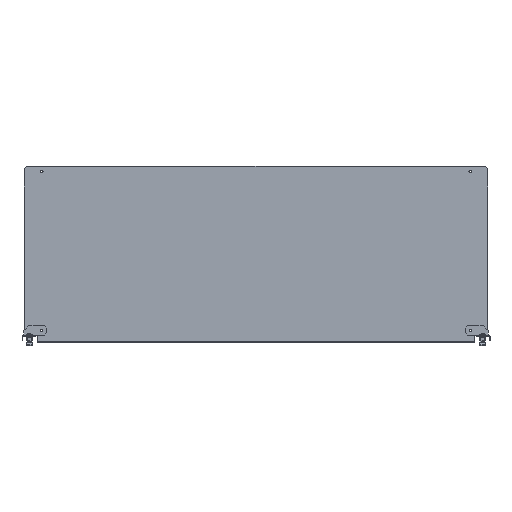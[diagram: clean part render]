
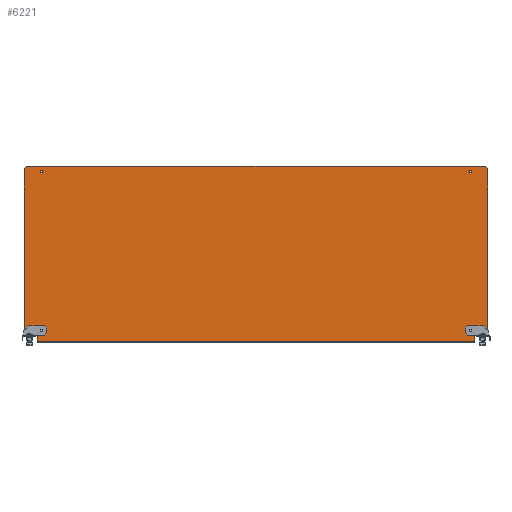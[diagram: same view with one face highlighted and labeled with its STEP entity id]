
A CAD part, top view. The second image highlights one B-rep face of the part: STEP entity #6221.
In plain terms, the highlighted planar face has unit normal (0, 0, 1).
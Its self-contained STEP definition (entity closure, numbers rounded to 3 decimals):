
#3916=CARTESIAN_POINT(' ',(443.25,-155.,0.));
#3917=VERTEX_POINT(' ',#3916);
#3991=CARTESIAN_POINT(' ',(440.25,-158.,0.));
#3992=VERTEX_POINT(' ',#3991);
#4006=CARTESIAN_POINT(' ',(440.25,-155.,0.));
#4011=DIRECTION(' ',(0.,-0.,1.));
#4016=DIRECTION(' ',(0.,-1.,0.));
#4021=AXIS2_PLACEMENT_3D(' ',#4006,#4011,#4016);
#4026=CIRCLE('',#4021,3.);
#4031=EDGE_CURVE(' ',#3992,#3917,#4026,.T.);
#4126=CARTESIAN_POINT(' ',(440.251,-154.999,0.));
#4131=DIRECTION(' ',(0.,0.,1.));
#4136=DIRECTION(' ',(1.,0.,0.));
#4141=AXIS2_PLACEMENT_3D(' ',#4126,#4131,#4136);
#4146=CIRCLE('',#4141,2.999);
#4151=CARTESIAN_POINT(' ',(440.25,-152.,0.));
#4152=VERTEX_POINT(' ',#4151);
#4156=EDGE_CURVE(' ',#3917,#4152,#4146,.T.);
#5201=CARTESIAN_POINT(' ',(434.25,-158.,0.));
#5206=DIRECTION(' ',(1.,0.,0.));
#5211=VECTOR(' ',#5206,1.);
#5216=LINE('',#5201,#5211);
#5221=CARTESIAN_POINT(' ',(434.25,-158.,0.));
#5222=VERTEX_POINT(' ',#5221);
#5226=EDGE_CURVE(' ',#5222,#3992,#5216,.T.);
#5291=DIRECTION(' ',(-0.,-0.,1.));
#5296=CARTESIAN_POINT(' ',(473.,-177.4,0.));
#5301=DIRECTION(' ',(0.,1.,0.));
#5306=AXIS2_PLACEMENT_3D(' ',#5296,#5291,#5301);
#5311=PLANE('NONE',#5306);
#5316=CARTESIAN_POINT(' ',(446.,-165.,0.));
#5321=DIRECTION(' ',(1.,0.,0.));
#5326=VECTOR(' ',#5321,1.);
#5331=LINE('',#5316,#5326);
#5336=CARTESIAN_POINT(' ',(446.,-165.,0.));
#5337=VERTEX_POINT(' ',#5336);
#5341=CARTESIAN_POINT(' ',(468.,-165.,0.));
#5342=VERTEX_POINT(' ',#5341);
#5346=EDGE_CURVE(' ',#5337,#5342,#5331,.T.);
#5351=ORIENTED_EDGE(' ',*,*,#5346,.T.);
#5356=CARTESIAN_POINT(' ',(468.,-165.,0.));
#5361=DIRECTION(' ',(0.707,0.707,0.));
#5366=VECTOR(' ',#5361,1.);
#5371=LINE('',#5356,#5366);
#5376=CARTESIAN_POINT(' ',(473.,-160.,0.));
#5377=VERTEX_POINT(' ',#5376);
#5381=EDGE_CURVE(' ',#5342,#5377,#5371,.T.);
#5386=ORIENTED_EDGE(' ',*,*,#5381,.T.);
#5391=CARTESIAN_POINT(' ',(473.,-160.,0.));
#5396=DIRECTION(' ',(0.,1.,0.));
#5401=VECTOR(' ',#5396,1.);
#5406=LINE('',#5391,#5401);
#5411=CARTESIAN_POINT(' ',(473.,174.5,0.));
#5412=VERTEX_POINT(' ',#5411);
#5416=EDGE_CURVE(' ',#5377,#5412,#5406,.T.);
#5421=ORIENTED_EDGE(' ',*,*,#5416,.T.);
#5426=CARTESIAN_POINT(' ',(473.,174.5,0.));
#5431=DIRECTION(' ',(-0.707,0.707,0.));
#5436=VECTOR(' ',#5431,1.);
#5441=LINE('',#5426,#5436);
#5446=CARTESIAN_POINT(' ',(468.,179.5,0.));
#5447=VERTEX_POINT(' ',#5446);
#5451=EDGE_CURVE(' ',#5412,#5447,#5441,.T.);
#5456=ORIENTED_EDGE(' ',*,*,#5451,.T.);
#5461=CARTESIAN_POINT(' ',(468.,179.5,0.));
#5466=DIRECTION(' ',(-1.,0.,0.));
#5471=VECTOR(' ',#5466,1.);
#5476=LINE('',#5461,#5471);
#5481=CARTESIAN_POINT(' ',(-468.,179.5,0.));
#5482=VERTEX_POINT(' ',#5481);
#5486=EDGE_CURVE(' ',#5447,#5482,#5476,.T.);
#5491=ORIENTED_EDGE(' ',*,*,#5486,.T.);
#5496=CARTESIAN_POINT(' ',(-468.,179.5,0.));
#5501=DIRECTION(' ',(-0.707,-0.707,0.));
#5506=VECTOR(' ',#5501,1.);
#5511=LINE('',#5496,#5506);
#5516=CARTESIAN_POINT(' ',(-473.,174.5,0.));
#5517=VERTEX_POINT(' ',#5516);
#5521=EDGE_CURVE(' ',#5482,#5517,#5511,.T.);
#5526=ORIENTED_EDGE(' ',*,*,#5521,.T.);
#5531=CARTESIAN_POINT(' ',(-473.,174.5,0.));
#5536=DIRECTION(' ',(0.,-1.,0.));
#5541=VECTOR(' ',#5536,1.);
#5546=LINE('',#5531,#5541);
#5551=CARTESIAN_POINT(' ',(-473.,-160.,0.));
#5552=VERTEX_POINT(' ',#5551);
#5556=EDGE_CURVE(' ',#5517,#5552,#5546,.T.);
#5561=ORIENTED_EDGE(' ',*,*,#5556,.T.);
#5566=CARTESIAN_POINT(' ',(-473.,-160.,0.));
#5571=DIRECTION(' ',(0.707,-0.707,0.));
#5576=VECTOR(' ',#5571,1.);
#5581=LINE('',#5566,#5576);
#5586=CARTESIAN_POINT(' ',(-468.,-165.,0.));
#5587=VERTEX_POINT(' ',#5586);
#5591=EDGE_CURVE(' ',#5552,#5587,#5581,.T.);
#5596=ORIENTED_EDGE(' ',*,*,#5591,.T.);
#5601=CARTESIAN_POINT(' ',(-468.,-165.,0.));
#5606=DIRECTION(' ',(1.,0.,0.));
#5611=VECTOR(' ',#5606,1.);
#5616=LINE('',#5601,#5611);
#5621=CARTESIAN_POINT(' ',(-446.,-165.,0.));
#5622=VERTEX_POINT(' ',#5621);
#5626=EDGE_CURVE(' ',#5587,#5622,#5616,.T.);
#5631=ORIENTED_EDGE(' ',*,*,#5626,.T.);
#5636=CARTESIAN_POINT(' ',(-446.,-165.,0.));
#5641=DIRECTION(' ',(0.,-1.,0.));
#5646=VECTOR(' ',#5641,1.);
#5651=LINE('',#5636,#5646);
#5656=CARTESIAN_POINT(' ',(-446.,-177.4,0.));
#5657=VERTEX_POINT(' ',#5656);
#5661=EDGE_CURVE(' ',#5622,#5657,#5651,.T.);
#5666=ORIENTED_EDGE(' ',*,*,#5661,.T.);
#5671=CARTESIAN_POINT(' ',(446.,-177.4,0.));
#5676=DIRECTION(' ',(-1.,0.,0.));
#5681=VECTOR(' ',#5676,1.);
#5686=LINE('',#5671,#5681);
#5691=CARTESIAN_POINT(' ',(446.,-177.4,0.));
#5692=VERTEX_POINT(' ',#5691);
#5696=EDGE_CURVE(' ',#5692,#5657,#5686,.T.);
#5701=ORIENTED_EDGE(' ',*,*,#5696,.F.);
#5706=CARTESIAN_POINT(' ',(446.,-177.4,0.));
#5711=DIRECTION(' ',(0.,1.,0.));
#5716=VECTOR(' ',#5711,1.);
#5721=LINE('',#5706,#5716);
#5726=EDGE_CURVE(' ',#5692,#5337,#5721,.T.);
#5731=ORIENTED_EDGE(' ',*,*,#5726,.T.);
#5736=EDGE_LOOP(' ',(#5351,#5386,#5421,#5456,#5491,#5526,#5561,#5596,#5631,#5666,#5701,#5731));
#5741=FACE_OUTER_BOUND(' ',#5736,.T.);
#5746=ORIENTED_EDGE(' ',*,*,#5226,.F.);
#5751=CARTESIAN_POINT(' ',(434.25,-155.,0.));
#5756=DIRECTION(' ',(0.,0.,1.));
#5761=DIRECTION(' ',(0.,1.,0.));
#5766=AXIS2_PLACEMENT_3D(' ',#5751,#5756,#5761);
#5771=CIRCLE('',#5766,3.);
#5776=CARTESIAN_POINT(' ',(434.25,-152.,0.));
#5777=VERTEX_POINT(' ',#5776);
#5781=EDGE_CURVE(' ',#5777,#5222,#5771,.T.);
#5786=ORIENTED_EDGE(' ',*,*,#5781,.F.);
#5791=CARTESIAN_POINT(' ',(440.25,-152.,0.));
#5796=DIRECTION(' ',(-1.,0.,0.));
#5801=VECTOR(' ',#5796,1.);
#5806=LINE('',#5791,#5801);
#5811=EDGE_CURVE(' ',#4152,#5777,#5806,.T.);
#5816=ORIENTED_EDGE(' ',*,*,#5811,.F.);
#5821=ORIENTED_EDGE(' ',*,*,#4156,.F.);
#5826=ORIENTED_EDGE(' ',*,*,#4031,.F.);
#5831=EDGE_LOOP(' ',(#5746,#5786,#5816,#5821,#5826));
#5836=FACE_BOUND(' ',#5831,.T.);
#5841=CARTESIAN_POINT(' ',(-434.25,-152.,0.));
#5846=DIRECTION(' ',(-1.,0.,0.));
#5851=VECTOR(' ',#5846,1.);
#5856=LINE('',#5841,#5851);
#5861=CARTESIAN_POINT(' ',(-434.25,-152.,0.));
#5862=VERTEX_POINT(' ',#5861);
#5866=CARTESIAN_POINT(' ',(-440.25,-152.,0.));
#5867=VERTEX_POINT(' ',#5866);
#5871=EDGE_CURVE(' ',#5862,#5867,#5856,.T.);
#5876=ORIENTED_EDGE(' ',*,*,#5871,.F.);
#5881=CARTESIAN_POINT(' ',(-434.249,-154.999,0.));
#5886=DIRECTION(' ',(0.,0.,1.));
#5891=DIRECTION(' ',(1.,0.,0.));
#5896=AXIS2_PLACEMENT_3D(' ',#5881,#5886,#5891);
#5901=CIRCLE('',#5896,2.999);
#5906=CARTESIAN_POINT(' ',(-431.25,-155.,0.));
#5907=VERTEX_POINT(' ',#5906);
#5911=EDGE_CURVE(' ',#5907,#5862,#5901,.T.);
#5916=ORIENTED_EDGE(' ',*,*,#5911,.F.);
#5921=CARTESIAN_POINT(' ',(-434.25,-155.,0.));
#5926=DIRECTION(' ',(0.,-0.,1.));
#5931=DIRECTION(' ',(0.,-1.,0.));
#5936=AXIS2_PLACEMENT_3D(' ',#5921,#5926,#5931);
#5941=CIRCLE('',#5936,3.);
#5946=CARTESIAN_POINT(' ',(-434.25,-158.,0.));
#5947=VERTEX_POINT(' ',#5946);
#5951=EDGE_CURVE(' ',#5947,#5907,#5941,.T.);
#5956=ORIENTED_EDGE(' ',*,*,#5951,.F.);
#5961=CARTESIAN_POINT(' ',(-440.25,-158.,0.));
#5966=DIRECTION(' ',(1.,0.,0.));
#5971=VECTOR(' ',#5966,1.);
#5976=LINE('',#5961,#5971);
#5981=CARTESIAN_POINT(' ',(-440.25,-158.,0.));
#5982=VERTEX_POINT(' ',#5981);
#5986=EDGE_CURVE(' ',#5982,#5947,#5976,.T.);
#5991=ORIENTED_EDGE(' ',*,*,#5986,.F.);
#5996=CARTESIAN_POINT(' ',(-440.25,-155.,0.));
#6001=DIRECTION(' ',(0.,0.,1.));
#6006=DIRECTION(' ',(0.,1.,0.));
#6011=AXIS2_PLACEMENT_3D(' ',#5996,#6001,#6006);
#6016=CIRCLE('',#6011,3.);
#6021=EDGE_CURVE(' ',#5867,#5982,#6016,.T.);
#6026=ORIENTED_EDGE(' ',*,*,#6021,.F.);
#6031=EDGE_LOOP(' ',(#5876,#5916,#5956,#5991,#6026));
#6036=FACE_BOUND(' ',#6031,.T.);
#6041=CARTESIAN_POINT(' ',(-437.25,169.5,0.));
#6046=DIRECTION(' ',(0.,0.,1.));
#6051=DIRECTION(' ',(1.,0.,0.));
#6056=AXIS2_PLACEMENT_3D(' ',#6041,#6046,#6051);
#6061=CIRCLE('',#6056,2.75);
#6066=CARTESIAN_POINT(' ',(-434.5,169.5,0.));
#6067=VERTEX_POINT(' ',#6066);
#6071=CARTESIAN_POINT(' ',(-440.,169.5,0.));
#6072=VERTEX_POINT(' ',#6071);
#6076=EDGE_CURVE(' ',#6067,#6072,#6061,.T.);
#6081=ORIENTED_EDGE(' ',*,*,#6076,.F.);
#6086=CARTESIAN_POINT(' ',(-437.25,169.5,0.));
#6091=DIRECTION(' ',(0.,-0.,1.));
#6096=DIRECTION(' ',(-1.,0.,0.));
#6101=AXIS2_PLACEMENT_3D(' ',#6086,#6091,#6096);
#6106=CIRCLE('',#6101,2.75);
#6111=EDGE_CURVE(' ',#6072,#6067,#6106,.T.);
#6116=ORIENTED_EDGE(' ',*,*,#6111,.F.);
#6121=EDGE_LOOP(' ',(#6081,#6116));
#6126=FACE_BOUND(' ',#6121,.T.);
#6131=CARTESIAN_POINT(' ',(437.25,169.5,0.));
#6136=DIRECTION(' ',(0.,0.,1.));
#6141=DIRECTION(' ',(1.,0.,0.));
#6146=AXIS2_PLACEMENT_3D(' ',#6131,#6136,#6141);
#6151=CIRCLE('',#6146,2.75);
#6156=CARTESIAN_POINT(' ',(440.,169.5,0.));
#6157=VERTEX_POINT(' ',#6156);
#6161=CARTESIAN_POINT(' ',(434.5,169.5,0.));
#6162=VERTEX_POINT(' ',#6161);
#6166=EDGE_CURVE(' ',#6157,#6162,#6151,.T.);
#6171=ORIENTED_EDGE(' ',*,*,#6166,.F.);
#6176=CARTESIAN_POINT(' ',(437.25,169.5,0.));
#6181=DIRECTION(' ',(0.,-0.,1.));
#6186=DIRECTION(' ',(-1.,0.,0.));
#6191=AXIS2_PLACEMENT_3D(' ',#6176,#6181,#6186);
#6196=CIRCLE('',#6191,2.75);
#6201=EDGE_CURVE(' ',#6162,#6157,#6196,.T.);
#6206=ORIENTED_EDGE(' ',*,*,#6201,.F.);
#6211=EDGE_LOOP(' ',(#6171,#6206));
#6216=FACE_BOUND(' ',#6211,.T.);
#6221=ADVANCED_FACE('NONE',(#5741,#5836,#6036,#6126,#6216),#5311,.T.);
